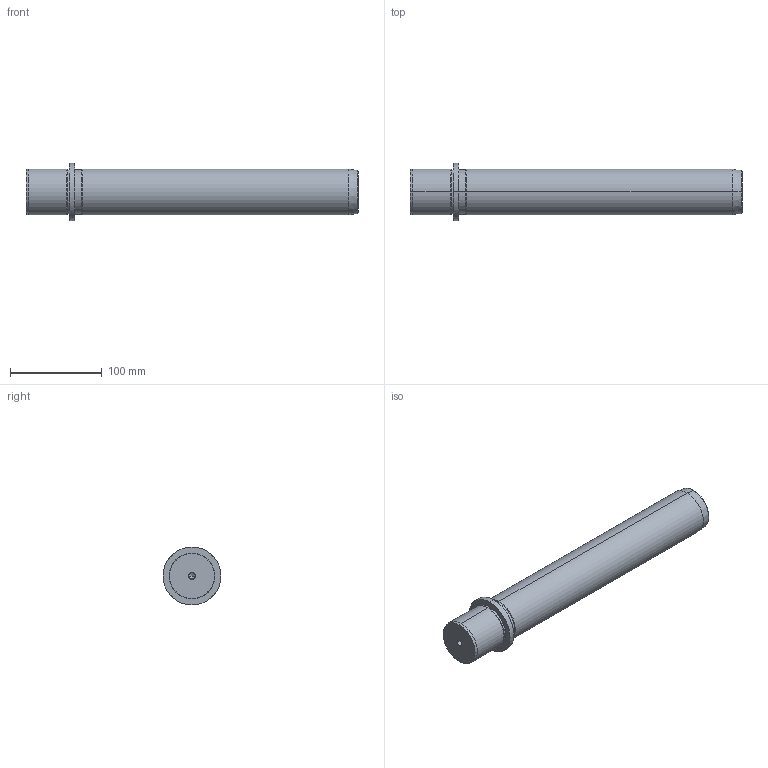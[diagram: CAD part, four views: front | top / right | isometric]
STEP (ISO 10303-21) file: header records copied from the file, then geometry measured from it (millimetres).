
FILE_DESCRIPTION(('CATIA V5 STEP Exchange'),'2;1');
FILE_NAME('C:\Users\Utente\Desktop\IO LAVORO\3D X SITO CF\X SITO\718\718-50x315.stp','2021-01-02T12:18:07+00:00',('none'),('none'),'CATIA Version 5 Release 20 GA (IN-10)','CATIA V5 STEP AP203','none');
FILE_SCHEMA(('CONFIG_CONTROL_DESIGN'));
Length unit declared in the file: millimetre
Products named in the file (1): 718-50x315
Bounding box: 362 x 63 x 63 mm (x, y, z)
Volume: 713842.4 mm3; surface area: 64146.3 mm2
Topology: 1 solids, 1 shells, 36 faces, 100 edges, 66 vertices
Faces by surface type: cone 16, cylinder 14, plane 4, torus 2
Entity records: 1291 total; most frequent: CARTESIAN_POINT 362, ORIENTED_EDGE 192, DIRECTION 157, EDGE_CURVE 96, AXIS2_PLACEMENT_3D 92, VERTEX_POINT 66, CIRCLE 55, EDGE_LOOP 40
